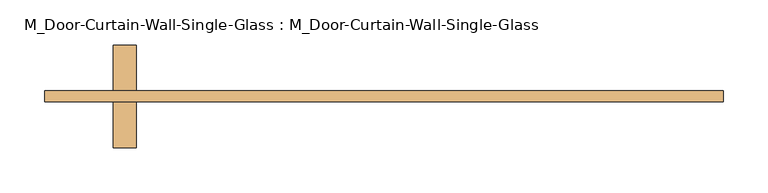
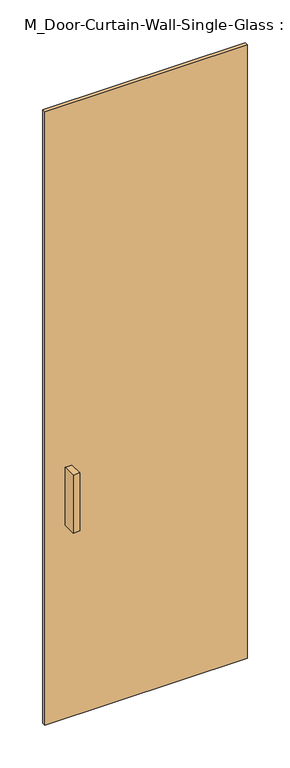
"""IFC4 building model written with IfcOpenShell, lengths in millimetres: door geometry, M_Door-Curtain-Wall-Single-Glass : M_Door-Curtain-Wall-Single-Glass."""

import ifcopenshell
import ifcopenshell.guid

model = None  # the IFC model being written
_history = None  # IfcOwnerHistory: only IFC2X3 demands one
_inside = {}  # id of a spatial element -> (the spatial element, [elements in it])
_under = {}  # id of a project, library or spatial element -> (it, [spatial elements below it])
_declared = {}  # id of a project -> (the project, [libraries it declares])
_typed = {}  # id of a type object -> (the type object, [elements of that type])
_made_of = {}  # id of a material, layer set ... -> (it, [elements and type objects made of it])


def new_model(schema):
    """Start an empty IFC model of exactly this schema.

    Asked for "IFC4X3", IfcOpenShell would pick the latest addendum, in which some entities
    have other attributes; the version numbers below select the first issue.
    IFC2X3 requires an IfcOwnerHistory on every rooted entity: one is made here for all.
    """
    global model, _history
    if schema == "IFC4X3":
        model = ifcopenshell.file(schema_version=(4, 3, 0, 0))
    else:
        model = ifcopenshell.file(schema=schema)
    _inside.clear()
    _under.clear()
    _declared.clear()
    _typed.clear()
    _made_of.clear()
    _history = None
    if model.schema == "IFC2X3":
        org = make("IfcOrganization", Name="unknown")
        user = make(
            "IfcPersonAndOrganization",
            ThePerson=make("IfcPerson", FamilyName="unknown"),
            TheOrganization=org,
        )
        app = make(
            "IfcApplication",
            ApplicationDeveloper=org,
            Version="unknown",
            ApplicationFullName="unknown",
            ApplicationIdentifier="unknown",
        )
        _history = make(
            "IfcOwnerHistory",
            OwningUser=user,
            OwningApplication=app,
            ChangeAction="ADDED",
            CreationDate=0,
        )
    return model


def make(cls, **values):
    """One entity of the class cls with the attributes given. An attribute that is None is left unset."""
    return model.create_entity(
        cls, **{name: value for name, value in values.items() if value is not None}
    )


def rooted(cls, **values):
    """An entity with a GlobalId (a new one), such as an element, a storey or a relation."""
    return make(cls, GlobalId=ifcopenshell.guid.new(), OwnerHistory=_history, **values)


def si_unit(unit_type, name, prefix=None):
    """IfcSIUnit, for example si_unit("LENGTHUNIT", "METRE", prefix="MILLI")."""
    return make("IfcSIUnit", UnitType=unit_type, Prefix=prefix, Name=name)


def assignment(units):
    """IfcUnitAssignment: the units of a project."""
    return None if units is None else make("IfcUnitAssignment", Units=units)


def point(xyz):
    """IfcCartesianPoint."""
    return None if xyz is None else make("IfcCartesianPoint", Coordinates=xyz)


def direction(xyz):
    """IfcDirection."""
    return None if xyz is None else make("IfcDirection", DirectionRatios=xyz)


def frame(location, z_axis=None, x_axis=None):
    """IfcAxis2Placement3D, a coordinate frame: its origin and axes. An axis left out is left unset."""
    return make(
        "IfcAxis2Placement3D",
        Location=point(location),
        Axis=direction(z_axis),
        RefDirection=direction(x_axis),
    )


def origin():
    """The frame at (0, 0, 0) with its axes left unset."""
    return frame((0.0, 0.0, 0.0))


def origin_with_axes():
    """The frame at (0, 0, 0) with the z axis (0, 0, 1) and the x axis (1, 0, 0) written out."""
    return frame((0.0, 0.0, 0.0), z_axis=(0.0, 0.0, 1.0), x_axis=(1.0, 0.0, 0.0))


def place(relative_to, where):
    """IfcLocalPlacement: puts the frame where relative to a parent placement (None: the world)."""
    return make(
        "IfcLocalPlacement", PlacementRelTo=relative_to, RelativePlacement=where
    )


def context(
    kind, dimensions, precision=None, world=None, true_north=None, identifier=None
):
    """IfcGeometricRepresentationContext, for example the 3D "Model" context."""
    return make(
        "IfcGeometricRepresentationContext",
        ContextIdentifier=identifier,
        ContextType=kind,
        CoordinateSpaceDimension=dimensions,
        Precision=precision,
        WorldCoordinateSystem=world,
        TrueNorth=true_north,
    )


def project(units=None, contexts=None):
    """IfcProject with its units and contexts."""
    return rooted(
        "IfcProject",
        Name="project",
        RepresentationContexts=contexts,
        UnitsInContext=assignment(units),
    )


def spatial(cls, under=None, at=None, **own):
    """A site, building, storey or space (cls), placed at a placement, below another one or the project."""
    s = rooted(cls, ObjectPlacement=at, **own)
    if under is not None:
        _under.setdefault(under.id(), (under, []))[1].append(s)
    return s


def polyline(points):
    """IfcPolyline through the points."""
    return make("IfcPolyline", Points=[point(p) for p in points])


def outline(outer, holes=None, kind="AREA"):
    """IfcArbitraryClosedProfileDef: a profile drawn as a closed curve; with holes, ...WithVoids."""
    if holes is None:
        return make("IfcArbitraryClosedProfileDef", ProfileType=kind, OuterCurve=outer)
    return make(
        "IfcArbitraryProfileDefWithVoids",
        ProfileType=kind,
        OuterCurve=outer,
        InnerCurves=holes,
    )


def extrude(swept, where, along, depth):
    """IfcExtrudedAreaSolid: the profile swept, set in the frame where, extruded along a direction by depth."""
    return make(
        "IfcExtrudedAreaSolid",
        SweptArea=swept,
        Position=where,
        ExtrudedDirection=direction(along),
        Depth=depth,
    )


def shape(context_of_items, identifier, shape_type, items):
    """IfcShapeRepresentation: the items that make up one representation, for example the "Body"."""
    return make(
        "IfcShapeRepresentation",
        ContextOfItems=context_of_items,
        RepresentationIdentifier=identifier,
        RepresentationType=shape_type,
        Items=items,
    )


def source(mapping_origin, context_of_items, identifier, shape_type, items):
    """IfcRepresentationMap: a shape defined once, which mapped items show again and again."""
    return make(
        "IfcRepresentationMap",
        MappingOrigin=mapping_origin,
        MappedRepresentation=shape(context_of_items, identifier, shape_type, items),
    )


def transform(
    local_origin,
    x_axis=None,
    y_axis=None,
    z_axis=None,
    scale=None,
    scale2=None,
    scale3=None,
    uniform=True,
):
    """IfcCartesianTransformationOperator3D, or its non-uniform kind. x_axis, y_axis, z_axis: its Axis1, 2, 3."""
    if uniform:
        return make(
            "IfcCartesianTransformationOperator3D",
            Axis1=direction(x_axis),
            Axis2=direction(y_axis),
            LocalOrigin=point(local_origin),
            Scale=scale,
            Axis3=direction(z_axis),
        )
    return make(
        "IfcCartesianTransformationOperator3DnonUniform",
        Axis1=direction(x_axis),
        Axis2=direction(y_axis),
        LocalOrigin=point(local_origin),
        Scale=scale,
        Axis3=direction(z_axis),
        Scale2=scale2,
        Scale3=scale3,
    )


def mapped(mapping_source, mapping_target):
    """IfcMappedItem: shows the shape of a source again, moved by a transform."""
    return make(
        "IfcMappedItem", MappingSource=mapping_source, MappingTarget=mapping_target
    )


def made_of(thing, what):
    """Note that an element or type object is made of a material, layer set ...; save() writes the relation."""
    if what is not None:
        _made_of.setdefault(what.id(), (what, []))[1].append(thing)
    return thing


def element(
    cls,
    number,
    at=None,
    inside=None,
    cuts=None,
    type_object=None,
    material=None,
    context=None,
    identifier="Body",
    shape_type=None,
    held_by="IfcProductDefinitionShape",
    body=None,
    shapes=None,
    **own,
):
    """One element of the class cls, such as IfcWall. Its Tag is "e" and its number.

    at: its placement. inside: the storey or other place that contains it. cuts: it is an
    opening in that element (IfcRelVoidsElement). A single representation is given by context,
    identifier, shape_type and body (its items); several are given by shapes. held_by: the class
    of the entity that holds the representations. save() writes the other relations.
    """
    e = rooted(cls, Tag="e%d" % number, ObjectPlacement=at, **own)
    if body is not None:
        shapes = [shape(context, identifier, shape_type, body)]
    if shapes is not None:
        e.Representation = make(held_by, Representations=shapes)
    if inside is not None:
        _inside.setdefault(inside.id(), (inside, []))[1].append(e)
    if cuts is not None:
        rooted(
            "IfcRelVoidsElement", RelatingBuildingElement=cuts, RelatedOpeningElement=e
        )
    if type_object is not None:
        _typed.setdefault(type_object.id(), (type_object, []))[1].append(e)
    return made_of(e, material)


def aggregate(whole, parts):
    """IfcRelAggregates: a whole, such as a stair, and the parts it consists of."""
    return rooted("IfcRelAggregates", RelatingObject=whole, RelatedObjects=parts)


def save(model, path):
    """Write the relations noted so far, then the file.

    IfcRelAggregates (storeys below a building ...), IfcRelContainedInSpatialStructure (elements
    in a storey), IfcRelDefinesByType, IfcRelAssociatesMaterial and IfcRelDeclares: one each for
    every whole, place, type object, material and project.
    """
    for whole, parts in _under.values():
        aggregate(whole, parts)
    for where, things in _inside.values():
        rooted(
            "IfcRelContainedInSpatialStructure",
            RelatedElements=things,
            RelatingStructure=where,
        )
    for kind, things in _typed.values():
        rooted("IfcRelDefinesByType", RelatedObjects=things, RelatingType=kind)
    for what, things in _made_of.values():
        rooted("IfcRelAssociatesMaterial", RelatedObjects=things, RelatingMaterial=what)
    for by, libraries in _declared.values():
        rooted("IfcRelDeclares", RelatingContext=by, RelatedDefinitions=libraries)
    model.write(path)


def m_door_curtain_wall_single_glass_m_door_curtain_wall_single_9e41ad53(model_context):
    return source(origin(), model_context, "Body", "SweptSolid", [
        extrude(outline(polyline([(377.5, -50.8), (-377.5, -50.8), (-377.5, -38.1), (377.5, -38.1), (377.5, -50.8)])), origin_with_axes(), (0.0, 0.0, 1.0), 2420.0),
        extrude(outline(polyline([(-275.9, 12.7), (-275.9, -38.1), (-301.3, -38.1), (-301.3, 12.7), (-275.9, 12.7)])), frame((0.0, 0.0, 762.0), z_axis=(0.0, 0.0, 1.0), x_axis=(1.0, 0.0, 0.0)), (0.0, 0.0, 1.0), 228.6),
        extrude(outline(polyline([(-301.3, -101.6), (-301.3, -50.8), (-275.9, -50.8), (-275.9, -101.6), (-301.3, -101.6)])), frame((0.0, 0.0, 762.0), z_axis=(0.0, 0.0, 1.0), x_axis=(1.0, 0.0, 0.0)), (0.0, 0.0, 1.0), 228.6),
    ])


if __name__ == "__main__":
    model = new_model("IFC4")
    model_context = context("Model", 3, world=origin())
    ifc_project = project(units=[si_unit("LENGTHUNIT", "METRE", prefix="MILLI")], contexts=[model_context])
    site = spatial("IfcSite", under=ifc_project)
    building = spatial("IfcBuilding", under=site)
    placement = place(None, origin())
    m_door_curtain_wall_single_glass_m_door_curtain_wall_single_shape = m_door_curtain_wall_single_glass_m_door_curtain_wall_single_9e41ad53(model_context)
    element("IfcDoor", 1, ObjectType="M_Door-Curtain-Wall-Single-Glass : M_Door-Curtain-Wall-Single-Glass", at=placement, inside=building, context=model_context, shape_type="MappedRepresentation", body=[
        mapped(m_door_curtain_wall_single_glass_m_door_curtain_wall_single_shape, transform((0.0, 0.0, 0.0), x_axis=(1.0, 0.0, 0.0), y_axis=(0.0, 1.0, 0.0), z_axis=(0.0, 0.0, 1.0))),
    ])
    save(model, "model.ifc")
